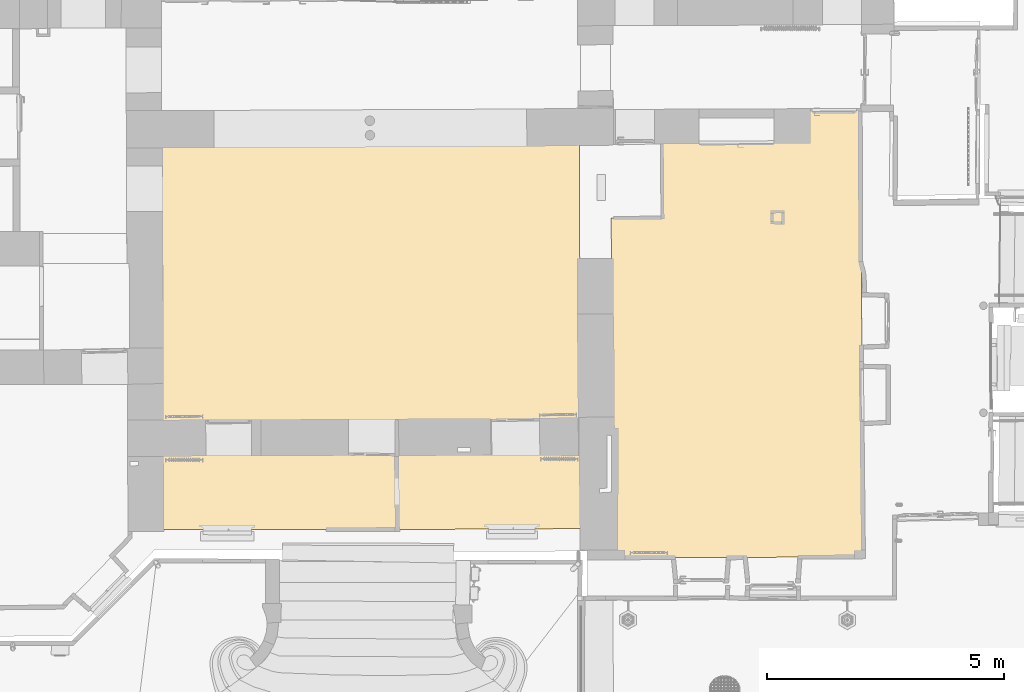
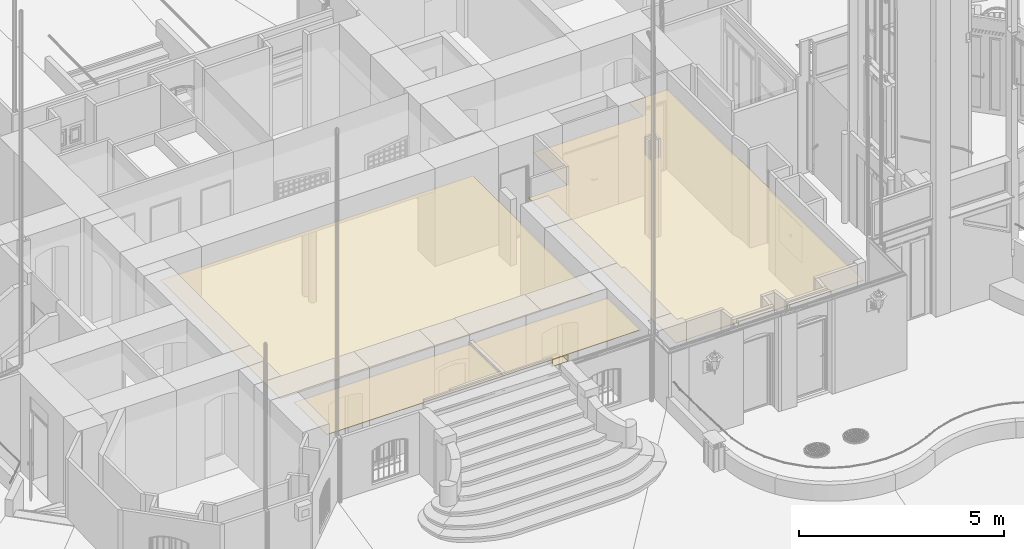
# One storey, part 119 of 133: 4 coverings.
"""IFC2X3 building model written with IfcOpenShell, lengths in centimetres."""

from ifc_helpers import new_model, entity, si_unit, converted_unit, direction, frame, origin, origin_with_axes, place, context, subcontext, project, spatial, faceted_brep, material, element, save


model = new_model("IFC2X3")

# Units and contexts
model_context = context("Model", 3, precision=0.0001, world=origin(), true_north=direction((0.225632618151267, 0.974212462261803, 0.0)))
body_context = subcontext(model_context, "Body", "Model", "MODEL_VIEW")
ifc_project = project(units=[si_unit("LENGTHUNIT", "METRE", prefix="CENTI"), si_unit("AREAUNIT", "SQUARE_METRE", prefix="CENTI"), si_unit("VOLUMEUNIT", "CUBIC_METRE", prefix="CENTI"), converted_unit("PLANEANGLEUNIT", "DEGREE", entity("IfcRatioMeasure", 0.0174532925), si_unit("PLANEANGLEUNIT", "RADIAN"), dimensions=[0, 0, 0, 0, 0, 0, 0])], contexts=[model_context])

# Site, building, storey
site_placement = place(None, origin_with_axes())
site = spatial("IfcSite", under=ifc_project, at=site_placement, Name="Default Site", CompositionType="ELEMENT")
building_placement = place(site_placement, origin_with_axes())
building = spatial("IfcBuilding", under=site, at=building_placement, Name="Default Building", CompositionType="ELEMENT")
storey_placement = place(building_placement, frame((0.0, 0.0, -291.400371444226), z_axis=(0.0, 0.0, 1.0), x_axis=(1.0, 0.0, 0.0)))
storey = spatial("IfcBuildingStorey", under=building, at=storey_placement, Name="Rez-de-Jardin", CompositionType="ELEMENT", Elevation=-291.400371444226)

# Coverings
ifc_material = material(Name="Blanc")
covering_1_placement = place(storey_placement, frame((-646.192194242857, -681.353236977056, 227.400371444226), z_axis=(0.0, 0.0, 1.0), x_axis=(1.0, 0.0, 0.0)))
element("IfcCovering", 1, at=covering_1_placement, inside=storey, material=ifc_material, Name="Faux-plafond 73183", PredefinedType="CEILING", context=body_context, shape_type="Brep", body=[
    faceted_brep([(-2.26303122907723e-05, 1.73230514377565e-06, 1.40000128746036), (882.670713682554, 4.93636304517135, 1.40000128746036), (880.549098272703, 586.272801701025, 1.40000128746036), (-1.40111325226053, 582.360811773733, 1.40000128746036), (-1.40111325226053, 582.360811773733, 1.43051150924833e-06), (880.549098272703, 586.272801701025, 1.43051150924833e-06), (882.670713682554, 4.93636304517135, 1.43051150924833e-06), (-2.26303122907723e-05, 1.73230514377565e-06, 1.43051150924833e-06), (882.670713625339, 4.93637327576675, 1.43051150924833e-06), (882.670713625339, 4.93637327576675, 1.40000128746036), (880.549099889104, 586.272801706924, 1.43051150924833e-06), (880.549099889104, 586.272801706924, 1.40000128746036), (-1.40111326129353, 582.360813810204, 1.43051150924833e-06), (-1.40111326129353, 582.360813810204, 1.40000128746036), (-4.41519717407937e-06, 1.77612910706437e-06, 1.43051150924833e-06), (-4.41519717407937e-06, 1.77612910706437e-06, 1.40000128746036)], [[[0, 1, 2, 3]], [[4, 5, 6, 7]], [[7, 8, 9, 0]], [[6, 10, 11, 1]], [[5, 12, 13, 2]], [[4, 14, 15, 3]]]),
])
covering_2_placement = place(storey_placement, frame((826.045218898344, -22.9720184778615, 234.200371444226), z_axis=(0.0, 0.0, 1.0), x_axis=(1.0, 0.0, 0.0)))
element("IfcCovering", 2, at=covering_2_placement, inside=storey, material=ifc_material, Name="Faux-plafond 73355", PredefinedType="CEILING", context=body_context, shape_type="Brep", body=[
    faceted_brep([(-110.75772423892, -66.8594052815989, 1.11279816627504), (-417.716590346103, -67.7555909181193, 0.361726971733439), (-416.29194398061, -227.654474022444, 0.365212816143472), (-524.685827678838, -228.235404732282, 0.0999931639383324), (-521.407453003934, -943.620770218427, 0.10801473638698), (6.61736350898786, -942.298023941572, 1.39999315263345), (-0.00342506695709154, -5.38881159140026e-07, 1.38379331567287), (-110.857430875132, -1.00217366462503, 1.11255420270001), (-110.853997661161, -1.00217366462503, -0.287440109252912), (8.16159845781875e-06, -5.38881159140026e-07, -0.0162009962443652), (6.62079672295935, -942.298023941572, -1.15931946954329e-06), (-521.404019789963, -943.620770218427, -1.29197957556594), (-524.682394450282, -228.235404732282, -1.3000011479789), (-416.288558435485, -227.654474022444, -1.03478161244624), (-417.713157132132, -67.7555909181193, -1.03826734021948), (-110.754338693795, -66.8594052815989, -0.28719626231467), (-110.754338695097, -66.8594052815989, -0.287195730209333), (-417.713157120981, -67.7555942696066, -1.03826789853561), (-417.716590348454, -67.7555942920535, 0.361731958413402), (-110.757724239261, -66.8594051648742, 1.11279816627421), (-417.713157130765, -67.7555909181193, -1.03826789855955), (-416.288539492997, -227.654473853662, -1.03478098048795), (-416.291965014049, -227.654474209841, 0.365212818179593), (-417.71658267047, -67.7555908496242, 0.361731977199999), (-416.288558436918, -227.654474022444, -1.03478102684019), (-524.682394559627, -228.235385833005, -1.2999978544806), (-524.685827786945, -228.235385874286, 0.0999960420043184), (-416.291943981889, -227.654473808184, 0.365212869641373), (-524.682394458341, -228.235404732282, -1.29999785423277), (-521.404026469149, -943.620770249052, -1.29198104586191), (-521.407452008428, -943.620770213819, 0.108018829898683), (-524.685819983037, -228.235404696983, 0.0999960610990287), (-521.404019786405, -943.620770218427, -1.29198102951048), (6.62079685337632, -942.298074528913, -2.66997800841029e-06), (6.6173636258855, -942.298074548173, 1.39999718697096), (-521.407453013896, -943.620770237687, 0.10801882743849), (6.62079672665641, -942.298023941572, -2.67028806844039e-06), (1.47235087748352e-05, -4.92711169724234e-07, -0.016197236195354), (-0.00341080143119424, -4.38590781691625e-07, 1.38379667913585), (6.6173711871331, -942.298023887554, 1.39999720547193), (8.152437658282e-06, -5.38881159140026e-07, -0.0161972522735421), (-110.853997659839, -1.00217381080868, -0.287440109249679), (-110.85743088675, -1.00217388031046, 1.11255974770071), (-0.0034250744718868, -6.08514771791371e-07, 1.38379664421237), (-110.754322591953, -66.8594052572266, -0.28719569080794), (-110.757748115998, -66.8594053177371, 1.11279810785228), (-110.857423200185, -1.00217365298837, 1.11255976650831)], [[[0, 1, 2, 3, 4, 5, 6, 7]], [[8, 9, 10, 11, 12, 13, 14, 15]], [[16, 17, 18, 19]], [[20, 21, 22, 23]], [[24, 25, 26, 27]], [[28, 29, 30, 31]], [[32, 33, 34, 35]], [[36, 37, 38, 39]], [[40, 41, 42, 43]], [[8, 44, 45, 46]]]),
])
covering_3_placement = place(storey_placement, frame((-150.920189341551, -748.075356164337, 257.900371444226), z_axis=(0.0, 0.0, 1.0), x_axis=(1.0, 0.0, 0.0)))
element("IfcCovering", 3, at=covering_3_placement, inside=storey, material=ifc_material, Name="Faux-plafond 73356", PredefinedType="CEILING", context=body_context, shape_type="Brep", body=[
    faceted_brep([(2.12627740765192, -159.303222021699, 1.39999902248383), (390.718949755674, -157.32110532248, 1.39999902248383), (389.254249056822, 0.878491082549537, 1.39999902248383), (194.397858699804, 2.45324579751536, 1.39999902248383), (9.14579412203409e-07, 1.39859919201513e-05, 1.39999902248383), (9.14579412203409e-07, 1.39859919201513e-05, -8.34465024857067e-07), (194.397858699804, 2.45324579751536, -8.34465024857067e-07), (389.254249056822, 0.878491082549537, -8.34465024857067e-07), (390.718949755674, -157.32110532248, -8.34465024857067e-07), (2.12627740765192, -159.303222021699, -8.34465024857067e-07), (390.718949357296, -157.321027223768, -8.34465024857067e-07), (390.718949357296, -157.321027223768, 1.39999902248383), (389.254258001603, 0.878491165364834, -8.34465024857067e-07), (389.254258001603, 0.878491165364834, 1.39999902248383), (194.397858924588, 2.4532736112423, -8.34465024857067e-07), (194.397858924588, 2.4532736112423, 1.39999902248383), (1.34448754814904e-06, -2.0080116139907e-05, -8.34465024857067e-07), (1.34448754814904e-06, -2.0080116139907e-05, 1.39999902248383), (2.1262741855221, -159.303222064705, -8.34465024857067e-07), (2.1262741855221, -159.303222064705, 1.39999902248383)], [[[0, 1, 2, 3, 4]], [[5, 6, 7, 8, 9]], [[9, 10, 11, 0]], [[8, 12, 13, 1]], [[7, 14, 15, 2]], [[6, 16, 17, 3]], [[5, 18, 19, 4]]]),
    faceted_brep([(141.09804125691, 1.77141634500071, -19.7000005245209), (140.754283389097, -158.596167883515, -19.7000005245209), (185.573227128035, -158.368335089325, -19.7000005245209), (184.476883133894, 2.32807604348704, -19.7000005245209), (184.476883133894, 2.32807604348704, -21.1000003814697), (185.573227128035, -158.368335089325, -21.1000003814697), (140.754283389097, -158.596167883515, -21.1000003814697), (141.09804125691, 1.77141634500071, -21.1000003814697), (140.754283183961, -158.596167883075, -21.1000003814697), (140.754283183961, -158.596167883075, -19.7000005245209), (185.573227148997, -158.368339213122, -21.1000003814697), (185.573227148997, -158.368339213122, -19.7000005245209), (184.476882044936, 2.32807603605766, -21.1000003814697), (184.476882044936, 2.32807603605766, -19.7000005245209), (141.098041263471, 1.77141583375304, -21.1000003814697), (141.098041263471, 1.77141583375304, -19.7000005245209)], [[[0, 1, 2, 3]], [[4, 5, 6, 7]], [[7, 8, 9, 0]], [[6, 10, 11, 1]], [[5, 12, 13, 2]], [[4, 14, 15, 3]]]),
    faceted_brep([(185.573227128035, -158.368525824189, -21.1000003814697), (184.494219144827, 2.3319861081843, -21.1000003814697), (185.744191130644, 2.34037844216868, -21.1000003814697), (186.823199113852, -158.360133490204, -21.1000003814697), (184.494219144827, 2.3319861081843, -8.34465024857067e-07), (185.744191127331, 2.34037893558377, -8.34465024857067e-07), (185.744191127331, 2.34037893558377, -21.1000003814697), (185.573227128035, -158.368525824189, -8.34465024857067e-07), (186.823199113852, -158.360133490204, -8.34465024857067e-07), (185.744191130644, 2.34037844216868, -8.34465024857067e-07), (186.823199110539, -158.360132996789, -21.1000003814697), (186.823199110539, -158.360132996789, -8.34465024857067e-07), (185.744189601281, 2.34037843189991, -21.1000003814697), (185.744189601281, 2.34037843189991, -8.34465024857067e-07), (184.494217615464, 2.33198609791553, -8.34465024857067e-07), (184.494217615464, 2.33198609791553, -21.1000003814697)], [[[0, 1, 2, 3]], [[1, 4, 5, 6]], [[4, 7, 8, 9]], [[7, 0, 10, 11]], [[3, 12, 13, 8]], [[7, 14, 15, 0]]]),
    faceted_brep([(139.504276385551, -158.597979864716, -21.1000003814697), (139.848043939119, 1.77408663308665, -21.1000003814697), (141.09804125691, 1.77141634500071, -21.1000003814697), (140.754273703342, -158.600650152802, -21.1000003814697), (139.848043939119, 1.77408663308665, -8.34465024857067e-07), (141.098041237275, 1.77140718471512, -8.34465024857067e-07), (141.098041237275, 1.77140718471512, -21.1000003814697), (139.504276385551, -158.597979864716, -8.34465024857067e-07), (140.754273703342, -158.600650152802, -8.34465024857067e-07), (141.09804125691, 1.77141634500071, -8.34465024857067e-07), (140.754273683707, -158.600659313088, -21.1000003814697), (140.754273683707, -158.600659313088, -8.34465024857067e-07), (141.098041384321, 1.7714163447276, -21.1000003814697), (141.098041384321, 1.7714163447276, -8.34465024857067e-07), (139.84804406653, 1.77408663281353, -8.34465024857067e-07), (139.84804406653, 1.77408663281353, -21.1000003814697)], [[[0, 1, 2, 3]], [[1, 4, 5, 6]], [[4, 7, 8, 9]], [[7, 0, 10, 11]], [[3, 12, 13, 8]], [[7, 14, 15, 0]]]),
])
covering_4_placement = place(storey_placement, frame((-645.983181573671, -747.785140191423, 256.700371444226), z_axis=(0.0, 0.0, 1.0), x_axis=(1.0, 0.0, 0.0)))
element("IfcCovering", 4, at=covering_4_placement, inside=storey, material=ifc_material, Name="Faux-plafond 73357", PredefinedType="CEILING", context=body_context, shape_type="Brep", body=[
    faceted_brep([(0.642977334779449, -159.322594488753, 1.39999957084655), (497.189484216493, -159.609745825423, 1.39999957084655), (495.063815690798, -0.352238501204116, 1.39999957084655), (393.758760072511, 0.882579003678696, 1.39999957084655), (1.01106583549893e-05, 1.10756053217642e-06, 1.39999957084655), (1.01106583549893e-05, 1.10756053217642e-06, -2.8610230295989e-07), (393.758760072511, 0.882579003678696, -2.8610230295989e-07), (495.063815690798, -0.352238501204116, -2.8610230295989e-07), (497.189484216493, -159.609745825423, -2.8610230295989e-07), (0.642977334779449, -159.322594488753, -2.8610230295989e-07), (497.189484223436, -159.609733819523, -2.8610230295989e-07), (497.189484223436, -159.609733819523, 1.39999957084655), (495.063821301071, -0.352238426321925, -2.8610230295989e-07), (495.063821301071, -0.352238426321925, 1.39999957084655), (393.758760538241, 0.882617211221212, -2.8610230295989e-07), (393.758760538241, 0.882617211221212, 1.39999957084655), (1.01586783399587e-05, -2.03158519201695e-05, -2.8610230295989e-07), (1.01586783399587e-05, -2.03158519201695e-05, 1.39999957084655), (0.642972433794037, -159.322594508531, -2.8610230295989e-07), (0.642972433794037, -159.322594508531, 1.39999957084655)], [[[0, 1, 2, 3, 4]], [[5, 6, 7, 8, 9]], [[9, 10, 11, 0]], [[8, 12, 13, 1]], [[7, 14, 15, 2]], [[6, 16, 17, 3]], [[5, 18, 19, 4]]]),
])

save(model, "model.ifc")
